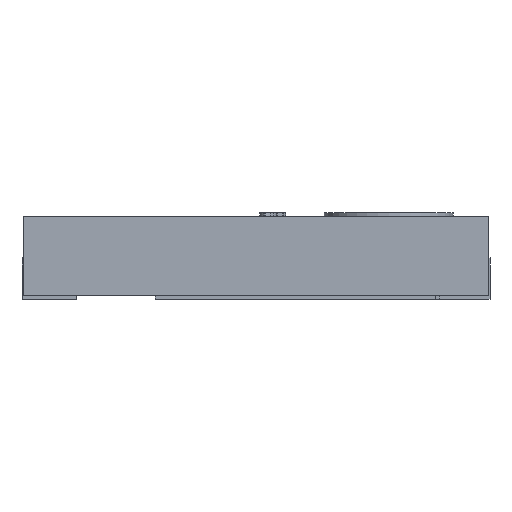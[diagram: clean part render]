
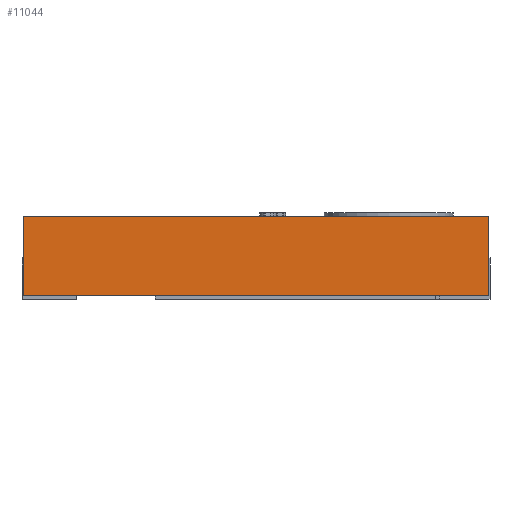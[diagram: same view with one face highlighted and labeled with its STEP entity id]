
A CAD part, front view. The second image highlights one B-rep face of the part: STEP entity #11044.
In plain terms, the highlighted planar face has unit normal (0, -1, 0).
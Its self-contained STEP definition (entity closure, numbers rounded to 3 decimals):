
#1308=PLANE('',#11300);
#1902=FACE_OUTER_BOUND('',#2519,.T.);
#2519=EDGE_LOOP('',(#10142,#10143,#10144,#10145));
#2867=LINE('',#16441,#3770);
#3360=LINE('',#21931,#4263);
#3361=LINE('',#21932,#4264);
#3362=LINE('',#21933,#4265);
#3770=VECTOR('',#11760,6.096);
#4263=VECTOR('',#12475,6.096);
#4264=VECTOR('',#12476,1.041);
#4265=VECTOR('',#12477,1.041);
#4783=VERTEX_POINT('',#16439);
#4784=VERTEX_POINT('',#16440);
#5405=VERTEX_POINT('',#21929);
#5406=VERTEX_POINT('',#21930);
#6071=EDGE_CURVE('',#4783,#4784,#2867,.T.);
#7002=EDGE_CURVE('',#5405,#5406,#3360,.T.);
#7003=EDGE_CURVE('',#4784,#5405,#3361,.T.);
#7004=EDGE_CURVE('',#5406,#4783,#3362,.T.);
#10142=ORIENTED_EDGE('',*,*,#7002,.F.);
#10143=ORIENTED_EDGE('',*,*,#7003,.F.);
#10144=ORIENTED_EDGE('',*,*,#6071,.F.);
#10145=ORIENTED_EDGE('',*,*,#7004,.F.);
#11044=ADVANCED_FACE('',(#1902),#1308,.T.);
#11300=AXIS2_PLACEMENT_3D('',#21928,#12473,#12474);
#11760=DIRECTION('',(1.,0.,0.));
#12473=DIRECTION('center_axis',(0.,-1.,0.));
#12474=DIRECTION('ref_axis',(0.,0.,1.));
#12475=DIRECTION('',(-1.,0.,0.));
#12476=DIRECTION('',(0.,0.,-1.));
#12477=DIRECTION('',(0.,0.,1.));
#16439=CARTESIAN_POINT('',(-3.048,-2.578,1.092));
#16440=CARTESIAN_POINT('',(3.048,-2.578,1.092));
#16441=CARTESIAN_POINT('',(-3.048,-2.578,1.092));
#21928=CARTESIAN_POINT('Origin',(-3.048,-2.578,0.051));
#21929=CARTESIAN_POINT('',(3.048,-2.578,0.051));
#21930=CARTESIAN_POINT('',(-3.048,-2.578,0.051));
#21931=CARTESIAN_POINT('',(3.048,-2.578,0.051));
#21932=CARTESIAN_POINT('',(3.048,-2.578,1.092));
#21933=CARTESIAN_POINT('',(-3.048,-2.578,0.051));
